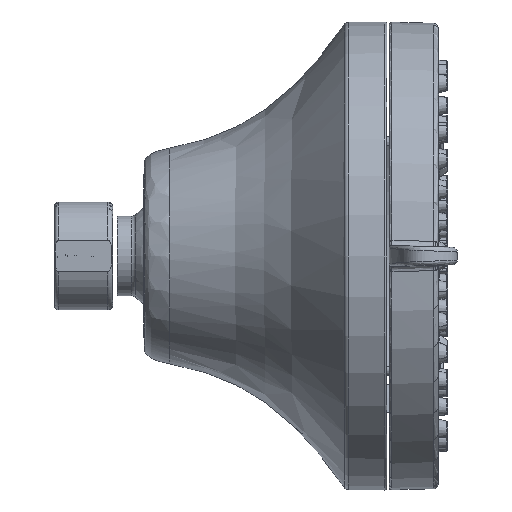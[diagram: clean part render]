
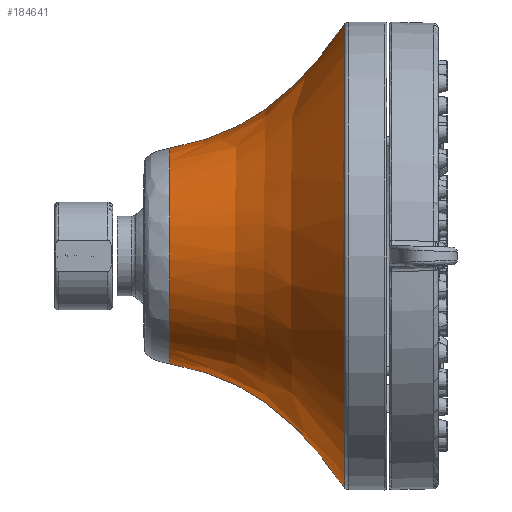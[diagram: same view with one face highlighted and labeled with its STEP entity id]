
A CAD part, left-side view. The second image highlights one B-rep face of the part: STEP entity #184641.
In plain terms, the highlighted free-form (B-spline) face has degree [3, 3] with [5, 4] control points.
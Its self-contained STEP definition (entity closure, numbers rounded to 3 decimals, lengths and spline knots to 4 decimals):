
#4400 = CARTESIAN_POINT ( 'NONE',  ( -3.8977, 0.3647, 1.9488 ) ) ;
#5464 = CARTESIAN_POINT ( 'NONE',  ( 0., 1.8357, -0.9068 ) ) ;
#6683 = VERTEX_POINT ( 'NONE', #78259 ) ;
#8279 = CARTESIAN_POINT ( 'NONE',  ( 0., 0.8187, -1.3025 ) ) ;
#8920 = CARTESIAN_POINT ( 'NONE',  ( 0., 1.8357, -0.9068 ) ) ;
#18472 = CARTESIAN_POINT ( 'NONE',  ( 0., 1.8357, 0.9068 ) ) ;
#19540 = CARTESIAN_POINT ( 'NONE',  ( -2.0355, 1.2235, 1.0178 ) ) ;
#20359 =( BOUNDED_CURVE ( )  B_SPLINE_CURVE ( 3, ( #84842, #172961, #206376, #8920 ),
 .UNSPECIFIED., .F., .T. ) 
 B_SPLINE_CURVE_WITH_KNOTS ( ( 4, 4 ),
 ( 0., 1. ),
 .UNSPECIFIED. ) 
 CURVE ( )  GEOMETRIC_REPRESENTATION_ITEM ( )  RATIONAL_B_SPLINE_CURVE ( ( 1., 0.333, 0.333, 1. ) ) 
 REPRESENTATION_ITEM ( '' )  );
#24891 = ORIENTED_EDGE ( 'NONE', *, *, #194067, .F. ) ;
#30143 = VERTEX_POINT ( 'NONE', #45947 ) ;
#34658 = CARTESIAN_POINT ( 'NONE',  ( -3.8825, 0.37, -1.9412 ) ) ;
#44958 = EDGE_CURVE ( 'NONE', #6683, #30143, #20359, .T. ) ;
#45947 = CARTESIAN_POINT ( 'NONE',  ( 0., 1.8357, -0.9068 ) ) ;
#50854 = CARTESIAN_POINT ( 'NONE',  ( -3.8977, 0.3647, -1.9488 ) ) ;
#52978 = CARTESIAN_POINT ( 'NONE',  ( 0., 0.8187, -1.3025 ) ) ;
#64591 = VERTEX_POINT ( 'NONE', #189155 ) ;
#69857 = CARTESIAN_POINT ( 'NONE',  ( 0., 1.2235, -1.0178 ) ) ;
#70241 = CARTESIAN_POINT ( 'NONE',  ( 0., 0.3647, -1.9488 ) ) ;
#71304 = CARTESIAN_POINT ( 'NONE',  ( 0., 1.2235, 1.0178 ) ) ;
#73246 = VERTEX_POINT ( 'NONE', #199394 ) ;
#77028 = CARTESIAN_POINT ( 'NONE',  ( 0., 0.37, 1.9412 ) ) ;
#78259 = CARTESIAN_POINT ( 'NONE',  ( 0., 1.8357, 0.9068 ) ) ;
#84842 = CARTESIAN_POINT ( 'NONE',  ( 0., 1.8357, 0.9068 ) ) ;
#85396 = AXIS2_PLACEMENT_3D ( 'NONE', #165703, #146386, #150579 ) ;
#86454 = CARTESIAN_POINT ( 'NONE',  ( -2.6051, 0.8187, 1.3025 ) ) ;
#91963 = B_SPLINE_CURVE_WITH_KNOTS ( 'NONE', 3,
 ( #110501, #159053, #160140, #77028, #176304 ),
 .UNSPECIFIED., .F., .F.,
 ( 4, 1, 4 ),
 ( 0., 0.9882, 1. ),
 .UNSPECIFIED. ) ;
#92416 = EDGE_LOOP ( 'NONE', ( #125953, #177717, #177401, #24891 ) ) ;
#100525 = CARTESIAN_POINT ( 'NONE',  ( -3.8825, 0.37, 1.9412 ) ) ;
#103697 = CARTESIAN_POINT ( 'NONE',  ( 0., 0.37, -1.9412 ) ) ;
#109751 = CARTESIAN_POINT ( 'NONE',  ( 0., 0.3647, -1.9488 ) ) ;
#110501 = CARTESIAN_POINT ( 'NONE',  ( 0., 1.8357, 0.9068 ) ) ;
#116697 = CARTESIAN_POINT ( 'NONE',  ( -2.0355, 1.2235, -1.0178 ) ) ;
#118839 = CARTESIAN_POINT ( 'NONE',  ( 0., 1.2235, -1.0178 ) ) ;
#119889 = CARTESIAN_POINT ( 'NONE',  ( -1.8135, 1.8357, 0.9068 ) ) ;
#125953 = ORIENTED_EDGE ( 'NONE', *, *, #197348, .F. ) ;
#146386 = DIRECTION ( 'NONE',  ( 0., -1., 0. ) ) ;
#150579 = DIRECTION ( 'NONE',  ( 0., 0., 1. ) ) ;
#151881 = CARTESIAN_POINT ( 'NONE',  ( 0., 1.8357, -0.9068 ) ) ;
#159053 = CARTESIAN_POINT ( 'NONE',  ( 0., 1.2235, 1.0178 ) ) ;
#160140 = CARTESIAN_POINT ( 'NONE',  ( 0., 0.8187, 1.3025 ) ) ;
#161901 = EDGE_CURVE ( 'NONE', #30143, #64591, #194016, .T. ) ;
#165286 = CARTESIAN_POINT ( 'NONE',  ( 0., 0.8187, 1.3025 ) ) ;
#165703 = CARTESIAN_POINT ( 'NONE',  ( 0., 0.3647, 0. ) ) ;
#166341 = CARTESIAN_POINT ( 'NONE',  ( 0., 0.3647, 1.9488 ) ) ;
#167398 = CARTESIAN_POINT ( 'NONE',  ( -1.8135, 1.8357, -0.9068 ) ) ;
#172961 = CARTESIAN_POINT ( 'NONE',  ( -1.8135, 1.8357, 0.9068 ) ) ;
#176304 = CARTESIAN_POINT ( 'NONE',  ( 0., 0.3647, 1.9488 ) ) ;
#177401 = ORIENTED_EDGE ( 'NONE', *, *, #161901, .T. ) ;
#177717 = ORIENTED_EDGE ( 'NONE', *, *, #44958, .T. ) ;
#184641 = ADVANCED_FACE ( 'NONE', ( #200833 ), #187114, .T. ) ;
#184652 = CARTESIAN_POINT ( 'NONE',  ( 0., 0.37, 1.9412 ) ) ;
#185705 = CARTESIAN_POINT ( 'NONE',  ( -2.6051, 0.8187, -1.3025 ) ) ;
#187114 =( BOUNDED_SURFACE ( )  B_SPLINE_SURFACE ( 3, 3, ( 
 ( #5464, #167398, #119889, #18472 ),
 ( #118839, #116697, #19540, #71304 ),
 ( #52978, #185705, #86454, #165286 ),
 ( #103697, #34658, #100525, #184652 ),
 ( #70241, #50854, #4400, #166341 ) ),
 .UNSPECIFIED., .F., .F., .T. ) 
 B_SPLINE_SURFACE_WITH_KNOTS ( ( 4, 1, 4 ),
 ( 4, 4 ),
 ( 0.0091, 0.9806, 0.9922 ),
 ( 0., 1. ),
 .UNSPECIFIED. ) 
 GEOMETRIC_REPRESENTATION_ITEM ( )  RATIONAL_B_SPLINE_SURFACE ( (
 ( 1., 0.333, 0.333, 1.),
 ( 1., 0.333, 0.333, 1.),
 ( 1., 0.333, 0.333, 1.),
 ( 1., 0.333, 0.333, 1.),
 ( 1., 0.333, 0.333, 1.) ) ) 
 REPRESENTATION_ITEM ( '' )  SURFACE ( )  );
#189155 = CARTESIAN_POINT ( 'NONE',  ( 0., 0.3647, -1.9488 ) ) ;
#192169 = CIRCLE ( 'NONE', #85396, 1.9488 ) ;
#194016 = B_SPLINE_CURVE_WITH_KNOTS ( 'NONE', 3,
 ( #151881, #69857, #8279, #204687, #109751 ),
 .UNSPECIFIED., .F., .F.,
 ( 4, 1, 4 ),
 ( 0., 0.9882, 1. ),
 .UNSPECIFIED. ) ;
#194067 = EDGE_CURVE ( 'NONE', #73246, #64591, #192169, .T. ) ;
#197348 = EDGE_CURVE ( 'NONE', #6683, #73246, #91963, .T. ) ;
#199394 = CARTESIAN_POINT ( 'NONE',  ( 0., 0.3647, 1.9488 ) ) ;
#200833 = FACE_OUTER_BOUND ( 'NONE', #92416, .T. ) ;
#204687 = CARTESIAN_POINT ( 'NONE',  ( 0., 0.37, -1.9412 ) ) ;
#206376 = CARTESIAN_POINT ( 'NONE',  ( -1.8135, 1.8357, -0.9068 ) ) ;
